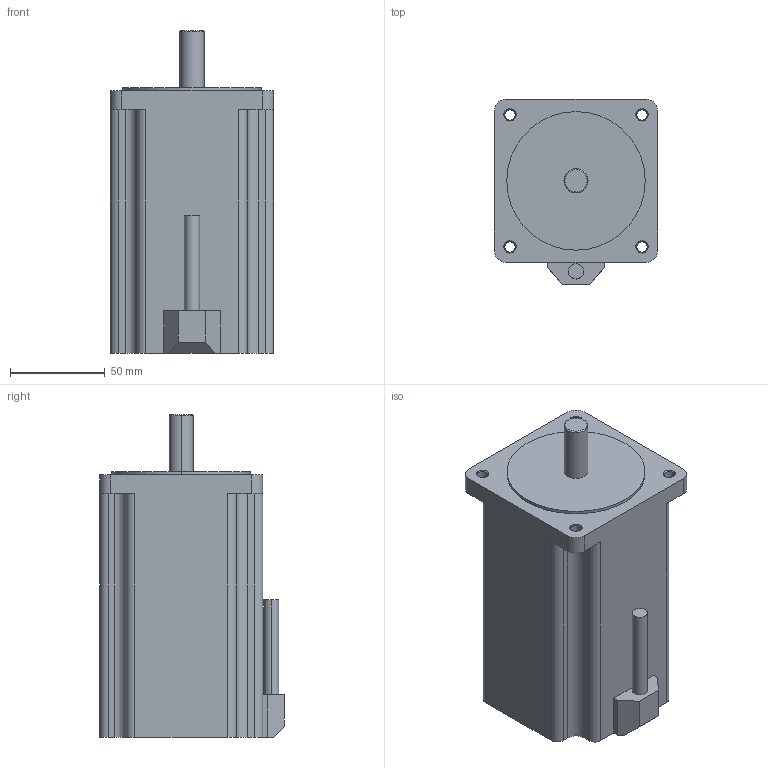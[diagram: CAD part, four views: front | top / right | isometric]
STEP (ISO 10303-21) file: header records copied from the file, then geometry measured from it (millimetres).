
FILE_DESCRIPTION (( 'STEP AP203' ), '1' );
FILE_NAME ('JK86BLS125-X002三维外形图.STEP', '2020-02-10T09:00:57', ( '微软用户' ), ( '微软中国' ), 'SwSTEP 2.0', 'SolidWorks 2010', '' );
FILE_SCHEMA (( 'CONFIG_CONTROL_DESIGN' ));
Length unit declared in the file: millimetre
Products named in the file (1): JK86BLS125-X002三维外形图
Bounding box: 86 x 97.5 x 170.25 mm (x, y, z)
Volume: 940660.7 mm3; surface area: 63000.5 mm2
Topology: 1 solids, 1 shells, 76 faces, 195 edges, 124 vertices
Faces by surface type: cylinder 30, plane 28, cone 18
Entity records: 2406 total; most frequent: DIRECTION 427, CARTESIAN_POINT 396, ORIENTED_EDGE 390, EDGE_CURVE 195, AXIS2_PLACEMENT_3D 155, VERTEX_POINT 124, LINE 117, VECTOR 117
